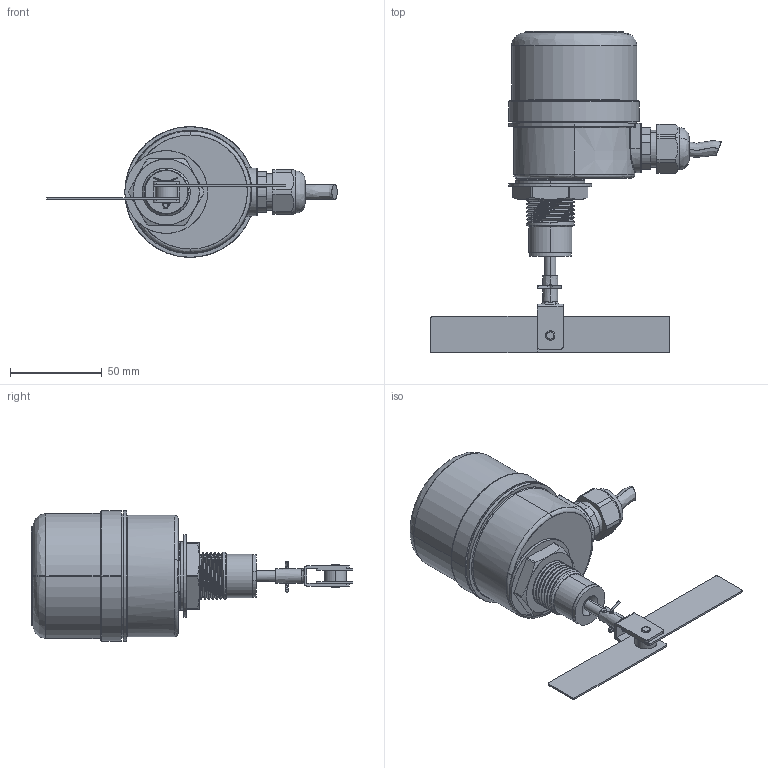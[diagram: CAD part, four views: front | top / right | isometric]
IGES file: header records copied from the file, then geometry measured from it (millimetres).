
Start section: SolidWorks IGES file using analytic representation for surfaces
Global section: file name: C:\Users\Äîì\Desktop\Äàò÷èêè ìîäåëè\IL-MEA 220VAC\Ðåçüáà\IL-MEA 220VAC ñêëàäíàÿ ëîïàñòü - ð.IGS; native system: SolidWorks 2020; preprocessor: SolidWorks 2020; author: Äîì; date: 201223.194403; units: millimetre
Bounding box: 157.97 x 175 x 71 mm (x, y, z)
Surface area: 52400.9 mm2 (no closed solid volume)
Topology: 0 solids, 0 shells, 292 faces, 4646 edges, 4644 vertices
Faces by surface type: bspline 152, revolution 140
